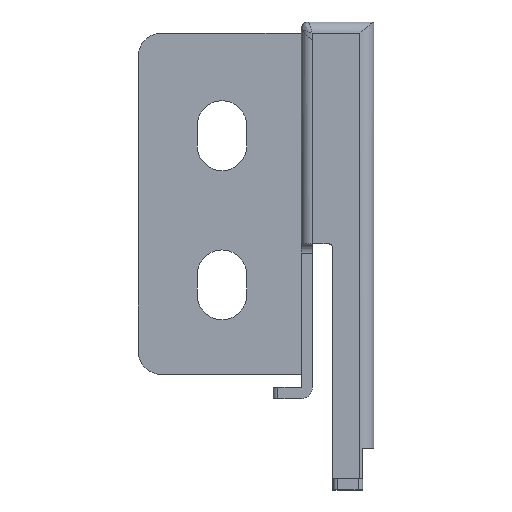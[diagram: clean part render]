
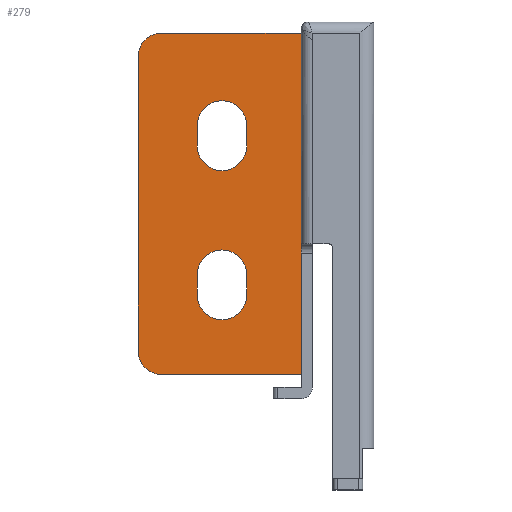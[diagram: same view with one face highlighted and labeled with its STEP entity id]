
A CAD part, left-side view. The second image highlights one B-rep face of the part: STEP entity #279.
In plain terms, the highlighted planar face has unit normal (-1, 0, 0).
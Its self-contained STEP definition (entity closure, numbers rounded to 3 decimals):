
#8 = AXIS2_PLACEMENT_3D ( 'NONE', #1397, #1948, #620 ) ;
#50 = DIRECTION ( 'NONE',  ( 0., 0., -1. ) ) ;
#53 = DIRECTION ( 'NONE',  ( 1., 0., 0. ) ) ;
#62 = VECTOR ( 'NONE', #1924, 1000. ) ;
#71 = ORIENTED_EDGE ( 'NONE', *, *, #1563, .T. ) ;
#79 = VERTEX_POINT ( 'NONE', #482 ) ;
#93 = CARTESIAN_POINT ( 'NONE',  ( 14.1, -23.6, 39.16 ) ) ;
#127 = AXIS2_PLACEMENT_3D ( 'NONE', #1123, #173, #277 ) ;
#161 = VECTOR ( 'NONE', #50, 1000. ) ;
#173 = DIRECTION ( 'NONE',  ( 1., 0., 0. ) ) ;
#198 = CARTESIAN_POINT ( 'NONE',  ( 14.1, -20.95, 55.16 ) ) ;
#208 = LINE ( 'NONE', #534, #161 ) ;
#235 = VECTOR ( 'NONE', #785, 1000. ) ;
#239 = VECTOR ( 'NONE', #1902, 1000. ) ;
#256 = ORIENTED_EDGE ( 'NONE', *, *, #1938, .F. ) ;
#257 = DIRECTION ( 'NONE',  ( 0., 1., 0. ) ) ;
#260 = ORIENTED_EDGE ( 'NONE', *, *, #955, .T. ) ;
#277 = DIRECTION ( 'NONE',  ( 0., 1., 0. ) ) ;
#279 = ADVANCED_FACE ( 'NONE', ( #392, #445, #1191 ), #1696, .F. ) ;
#291 = ORIENTED_EDGE ( 'NONE', *, *, #1231, .T. ) ;
#297 = VERTEX_POINT ( 'NONE', #1266 ) ;
#303 = VERTEX_POINT ( 'NONE', #1676 ) ;
#322 = CARTESIAN_POINT ( 'NONE',  ( 14.1, -32.1, 30.66 ) ) ;
#347 = VECTOR ( 'NONE', #365, 1000. ) ;
#365 = DIRECTION ( 'NONE',  ( 0., 1., 0. ) ) ;
#372 = EDGE_CURVE ( 'NONE', #1625, #760, #669, .T. ) ;
#392 = FACE_BOUND ( 'NONE', #1592, .T. ) ;
#440 = ORIENTED_EDGE ( 'NONE', *, *, #1605, .F. ) ;
#445 = FACE_BOUND ( 'NONE', #1690, .T. ) ;
#448 = VERTEX_POINT ( 'NONE', #1055 ) ;
#453 = CARTESIAN_POINT ( 'NONE',  ( 14.1, -14.6, 64.76 ) ) ;
#468 = AXIS2_PLACEMENT_3D ( 'NONE', #93, #1210, #257 ) ;
#482 = CARTESIAN_POINT ( 'NONE',  ( 14.1, -26.25, 41.36 ) ) ;
#490 = LINE ( 'NONE', #567, #62 ) ;
#518 = VERTEX_POINT ( 'NONE', #1650 ) ;
#534 = CARTESIAN_POINT ( 'NONE',  ( 14.1, -32.1, 189.9 ) ) ;
#567 = CARTESIAN_POINT ( 'NONE',  ( 14.1, -32.1, 67.26 ) ) ;
#570 = ORIENTED_EDGE ( 'NONE', *, *, #1823, .T. ) ;
#620 = DIRECTION ( 'NONE',  ( 0., -1., 0. ) ) ;
#627 = DIRECTION ( 'NONE',  ( 1., 0., 0. ) ) ;
#666 = CIRCLE ( 'NONE', #1925, 2.5 ) ;
#669 = CIRCLE ( 'NONE', #127, 2.65 ) ;
#679 = ORIENTED_EDGE ( 'NONE', *, *, #847, .T. ) ;
#699 = CARTESIAN_POINT ( 'NONE',  ( 14.1, -17.1, 33.16 ) ) ;
#703 = ORIENTED_EDGE ( 'NONE', *, *, #779, .F. ) ;
#733 = VERTEX_POINT ( 'NONE', #1602 ) ;
#749 = CARTESIAN_POINT ( 'NONE',  ( 14.1, -23.6, 41.36 ) ) ;
#760 = VERTEX_POINT ( 'NONE', #198 ) ;
#761 = DIRECTION ( 'NONE',  ( 0., 0., 1. ) ) ;
#770 = LINE ( 'NONE', #1312, #347 ) ;
#779 = EDGE_CURVE ( 'NONE', #1976, #518, #770, .T. ) ;
#785 = DIRECTION ( 'NONE',  ( 0., 0., 1. ) ) ;
#847 = EDGE_CURVE ( 'NONE', #1474, #448, #1543, .T. ) ;
#855 = EDGE_LOOP ( 'NONE', ( #570, #256, #1164, #1742, #703, #440 ) ) ;
#860 = EDGE_CURVE ( 'NONE', #518, #303, #666, .T. ) ;
#861 = VERTEX_POINT ( 'NONE', #1329 ) ;
#868 = DIRECTION ( 'NONE',  ( 0., -1., 0. ) ) ;
#875 = EDGE_CURVE ( 'NONE', #79, #1781, #1087, .T. ) ;
#915 = DIRECTION ( 'NONE',  ( 0., 1., 0. ) ) ;
#955 = EDGE_CURVE ( 'NONE', #1781, #861, #1310, .T. ) ;
#997 = ORIENTED_EDGE ( 'NONE', *, *, #372, .T. ) ;
#1012 = ORIENTED_EDGE ( 'NONE', *, *, #1962, .T. ) ;
#1021 = CARTESIAN_POINT ( 'NONE',  ( 14.1, -23.6, 57.36 ) ) ;
#1055 = CARTESIAN_POINT ( 'NONE',  ( 14.1, -26.25, 57.36 ) ) ;
#1059 = VECTOR ( 'NONE', #1171, 1000. ) ;
#1063 = ORIENTED_EDGE ( 'NONE', *, *, #1900, .T. ) ;
#1086 = VECTOR ( 'NONE', #761, 1000. ) ;
#1087 = LINE ( 'NONE', #1764, #239 ) ;
#1123 = CARTESIAN_POINT ( 'NONE',  ( 14.1, -23.6, 55.16 ) ) ;
#1164 = ORIENTED_EDGE ( 'NONE', *, *, #1343, .F. ) ;
#1171 = DIRECTION ( 'NONE',  ( 0., 0., -1. ) ) ;
#1173 = DIRECTION ( 'NONE',  ( 0., 1., 0. ) ) ;
#1185 = CIRCLE ( 'NONE', #1401, 2.5 ) ;
#1191 = FACE_OUTER_BOUND ( 'NONE', #855, .T. ) ;
#1196 = AXIS2_PLACEMENT_3D ( 'NONE', #749, #1807, #915 ) ;
#1210 = DIRECTION ( 'NONE',  ( 1., 0., 0. ) ) ;
#1231 = EDGE_CURVE ( 'NONE', #861, #297, #1281, .T. ) ;
#1248 = ORIENTED_EDGE ( 'NONE', *, *, #875, .T. ) ;
#1266 = CARTESIAN_POINT ( 'NONE',  ( 14.1, -20.95, 41.36 ) ) ;
#1281 = LINE ( 'NONE', #1878, #1630 ) ;
#1296 = VERTEX_POINT ( 'NONE', #453 ) ;
#1297 = CARTESIAN_POINT ( 'NONE',  ( 14.1, -20.95, 57.36 ) ) ;
#1310 = CIRCLE ( 'NONE', #468, 2.65 ) ;
#1312 = CARTESIAN_POINT ( 'NONE',  ( 14.1, -32.1, 30.66 ) ) ;
#1329 = CARTESIAN_POINT ( 'NONE',  ( 14.1, -20.95, 39.16 ) ) ;
#1343 = EDGE_CURVE ( 'NONE', #303, #1296, #1492, .T. ) ;
#1397 = CARTESIAN_POINT ( 'NONE',  ( 14.1, -33.4, 189.61 ) ) ;
#1401 = AXIS2_PLACEMENT_3D ( 'NONE', #1565, #627, #1715 ) ;
#1463 = VERTEX_POINT ( 'NONE', #1861 ) ;
#1474 = VERTEX_POINT ( 'NONE', #1297 ) ;
#1486 = CARTESIAN_POINT ( 'NONE',  ( 14.1, -26.25, 39.16 ) ) ;
#1492 = LINE ( 'NONE', #1837, #235 ) ;
#1543 = CIRCLE ( 'NONE', #1838, 2.65 ) ;
#1563 = EDGE_CURVE ( 'NONE', #448, #1625, #1849, .T. ) ;
#1565 = CARTESIAN_POINT ( 'NONE',  ( 14.1, -17.1, 64.76 ) ) ;
#1592 = EDGE_LOOP ( 'NONE', ( #1012, #679, #71, #997 ) ) ;
#1602 = CARTESIAN_POINT ( 'NONE',  ( 14.1, -32.1, 67.26 ) ) ;
#1605 = EDGE_CURVE ( 'NONE', #733, #1976, #208, .T. ) ;
#1625 = VERTEX_POINT ( 'NONE', #1877 ) ;
#1630 = VECTOR ( 'NONE', #1744, 1000. ) ;
#1650 = CARTESIAN_POINT ( 'NONE',  ( 14.1, -17.1, 30.66 ) ) ;
#1676 = CARTESIAN_POINT ( 'NONE',  ( 14.1, -14.6, 33.16 ) ) ;
#1687 = CARTESIAN_POINT ( 'NONE',  ( 14.1, -20.95, 189.61 ) ) ;
#1690 = EDGE_LOOP ( 'NONE', ( #291, #1063, #1248, #260 ) ) ;
#1691 = CIRCLE ( 'NONE', #1196, 2.65 ) ;
#1696 = PLANE ( 'NONE',  #8 ) ;
#1715 = DIRECTION ( 'NONE',  ( 0., -1., 0. ) ) ;
#1742 = ORIENTED_EDGE ( 'NONE', *, *, #860, .F. ) ;
#1744 = DIRECTION ( 'NONE',  ( 0., 0., 1. ) ) ;
#1759 = CARTESIAN_POINT ( 'NONE',  ( 14.1, -26.25, 189.61 ) ) ;
#1764 = CARTESIAN_POINT ( 'NONE',  ( 14.1, -26.25, 189.61 ) ) ;
#1772 = DIRECTION ( 'NONE',  ( 1., 0., 0. ) ) ;
#1781 = VERTEX_POINT ( 'NONE', #1486 ) ;
#1807 = DIRECTION ( 'NONE',  ( 1., 0., 0. ) ) ;
#1823 = EDGE_CURVE ( 'NONE', #733, #1463, #490, .T. ) ;
#1837 = CARTESIAN_POINT ( 'NONE',  ( 14.1, -14.6, 189.9 ) ) ;
#1838 = AXIS2_PLACEMENT_3D ( 'NONE', #1021, #53, #1173 ) ;
#1849 = LINE ( 'NONE', #1759, #1059 ) ;
#1861 = CARTESIAN_POINT ( 'NONE',  ( 14.1, -17.1, 67.26 ) ) ;
#1872 = LINE ( 'NONE', #1687, #1086 ) ;
#1877 = CARTESIAN_POINT ( 'NONE',  ( 14.1, -26.25, 55.16 ) ) ;
#1878 = CARTESIAN_POINT ( 'NONE',  ( 14.1, -20.95, 189.61 ) ) ;
#1900 = EDGE_CURVE ( 'NONE', #297, #79, #1691, .T. ) ;
#1902 = DIRECTION ( 'NONE',  ( 0., 0., -1. ) ) ;
#1924 = DIRECTION ( 'NONE',  ( 0., 1., 0. ) ) ;
#1925 = AXIS2_PLACEMENT_3D ( 'NONE', #699, #1772, #868 ) ;
#1938 = EDGE_CURVE ( 'NONE', #1296, #1463, #1185, .T. ) ;
#1948 = DIRECTION ( 'NONE',  ( 1., 0., 0. ) ) ;
#1962 = EDGE_CURVE ( 'NONE', #760, #1474, #1872, .T. ) ;
#1976 = VERTEX_POINT ( 'NONE', #322 ) ;
